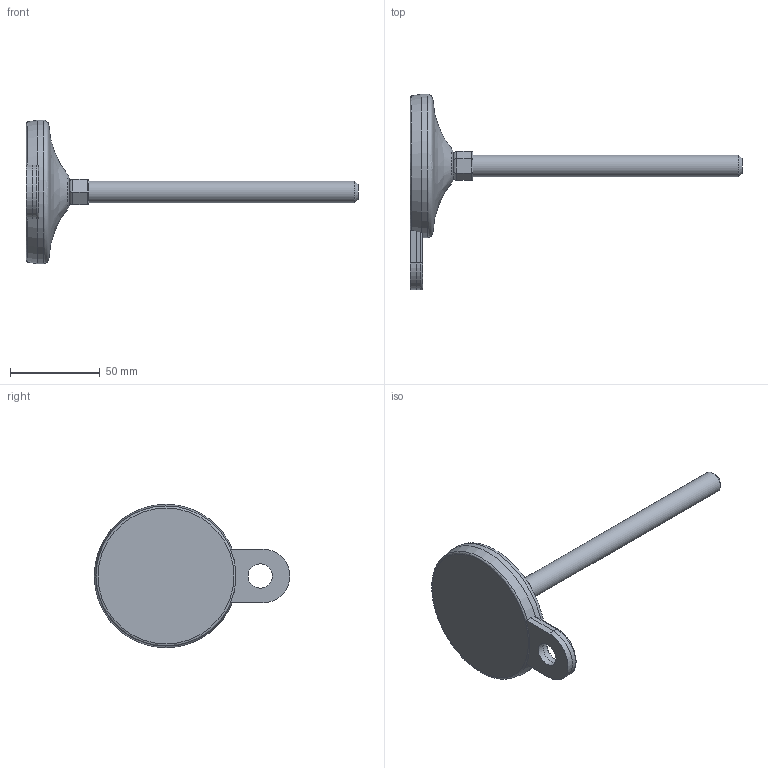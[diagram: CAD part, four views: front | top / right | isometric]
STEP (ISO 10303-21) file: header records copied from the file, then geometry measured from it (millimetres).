
FILE_DESCRIPTION(('STEP AP203'),'2;1');
FILE_NAME('25006-12-F.stp','2015-09-09T13:53:21',(''),(''),'2008.1.107','THINKDESIGN','');
FILE_SCHEMA(('CONFIG_CONTROL_DESIGN'));
Length unit declared in the file: millimetre
Bounding box: 185 x 109 x 80 mm (x, y, z)
Volume: 99664.4 mm3; surface area: 23281.8 mm2
Topology: 5 solids, 5 shells, 50 faces, 114 edges, 74 vertices
Faces by surface type: cylinder 22, plane 20, bspline 8
Full cylindrical faces by diameter (mm): 12 x1, 13.5 x2, 80 x1
Entity records: 2034 total; most frequent: CARTESIAN_POINT 821, DIRECTION 229, ORIENTED_EDGE 228, EDGE_CURVE 114, AXIS2_PLACEMENT_3D 87, VERTEX_POINT 74, VECTOR 55, LINE 55
